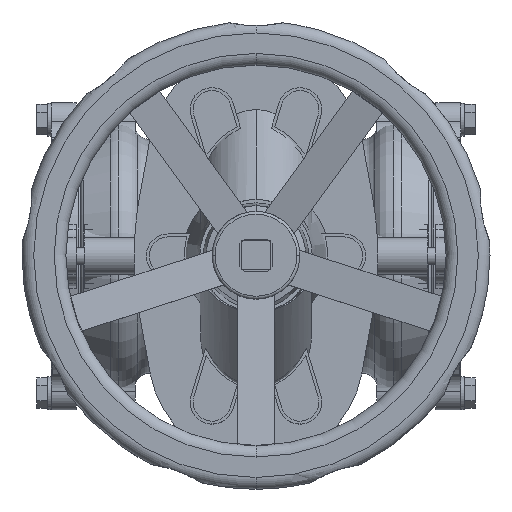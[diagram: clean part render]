
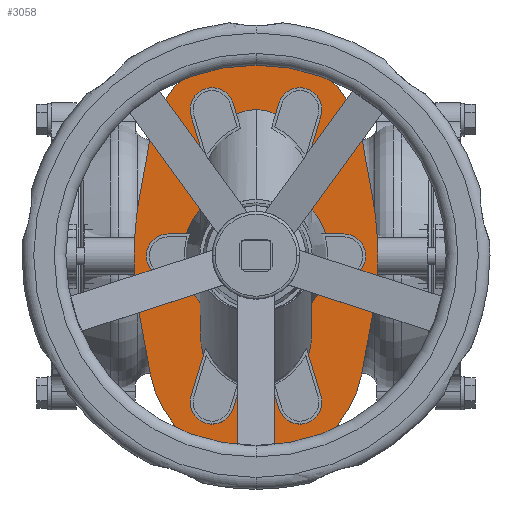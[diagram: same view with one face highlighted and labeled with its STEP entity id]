
A CAD part, top view. The second image highlights one B-rep face of the part: STEP entity #3058.
In plain terms, the highlighted planar face has unit normal (0, 0, 1).
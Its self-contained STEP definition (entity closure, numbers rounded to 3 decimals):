
#3058=ADVANCED_FACE('',(#5785),#5786,.T.);
#5785=FACE_OUTER_BOUND('',#8954,.T.);
#5786=PLANE('',#8955);
#8954=EDGE_LOOP('',(#14728,#14729,#14730,#14731,#14732,#14733,#14734,#14735,#14736,#14737,#14738,#14739,#14740,#14741));
#8955=AXIS2_PLACEMENT_3D('',#14742,#14743,#14744);
#14728=ORIENTED_EDGE('',*,*,#18981,.F.);
#14729=ORIENTED_EDGE('',*,*,#17556,.F.);
#14730=ORIENTED_EDGE('',*,*,#19130,.F.);
#14731=ORIENTED_EDGE('',*,*,#18385,.F.);
#14732=ORIENTED_EDGE('',*,*,#19417,.F.);
#14733=ORIENTED_EDGE('',*,*,#17340,.F.);
#14734=ORIENTED_EDGE('',*,*,#18104,.F.);
#14735=ORIENTED_EDGE('',*,*,#17674,.F.);
#14736=ORIENTED_EDGE('',*,*,#18150,.F.);
#14737=ORIENTED_EDGE('',*,*,#19418,.F.);
#14738=ORIENTED_EDGE('',*,*,#17766,.F.);
#14739=ORIENTED_EDGE('',*,*,#18643,.F.);
#14740=ORIENTED_EDGE('',*,*,#18400,.F.);
#14741=ORIENTED_EDGE('',*,*,#17980,.F.);
#14742=CARTESIAN_POINT('',(45.,0.,198.0));
#14743=DIRECTION('',(0.0,0.0,1.0));
#14744=DIRECTION('',(1.0,0.0,0.0));
#17340=EDGE_CURVE('',#20357,#20353,#20359,.T.);
#17556=EDGE_CURVE('',#20723,#20724,#20725,.T.);
#17674=EDGE_CURVE('',#20923,#20924,#20925,.T.);
#17766=EDGE_CURVE('',#21078,#21073,#21080,.T.);
#17980=EDGE_CURVE('',#21432,#21433,#21434,.T.);
#18104=EDGE_CURVE('',#20924,#20357,#21623,.T.);
#18150=EDGE_CURVE('',#21693,#20923,#21694,.T.);
#18385=EDGE_CURVE('',#22068,#22066,#22070,.T.);
#18400=EDGE_CURVE('',#21433,#22091,#22093,.T.);
#18643=EDGE_CURVE('',#22091,#21078,#22454,.T.);
#18981=EDGE_CURVE('',#20724,#21432,#22919,.T.);
#19130=EDGE_CURVE('',#22066,#20723,#23112,.T.);
#19417=EDGE_CURVE('',#20353,#22068,#23471,.T.);
#19418=EDGE_CURVE('',#21073,#21693,#23472,.T.);
#20353=VERTEX_POINT('',#24633);
#20357=VERTEX_POINT('',#24638);
#20359=CIRCLE('',#24641,222.594);
#20723=VERTEX_POINT('',#25204);
#20724=VERTEX_POINT('',#25205);
#20725=LINE('',#25206,#25207);
#20923=VERTEX_POINT('',#25457);
#20924=VERTEX_POINT('',#25458);
#20925=CIRCLE('',#25459,73.49);
#21073=VERTEX_POINT('',#25634);
#21078=VERTEX_POINT('',#25640);
#21080=CIRCLE('',#25643,222.594);
#21432=VERTEX_POINT('',#26099);
#21433=VERTEX_POINT('',#26100);
#21434=LINE('',#26101,#26102);
#21623=LINE('',#26382,#26383);
#21693=VERTEX_POINT('',#26469);
#21694=LINE('',#26470,#26471);
#22066=VERTEX_POINT('',#26947);
#22068=VERTEX_POINT('',#26950);
#22070=CIRCLE('',#26953,222.594);
#22091=VERTEX_POINT('',#26979);
#22093=CIRCLE('',#26982,222.594);
#22454=CIRCLE('',#27533,222.594);
#22919=CIRCLE('',#28128,73.49);
#23112=CIRCLE('',#28368,222.594);
#23471=CIRCLE('',#28834,222.594);
#23472=CIRCLE('',#28835,222.594);
#24633=CARTESIAN_POINT('',(128.258,0.594,198.0));
#24638=CARTESIAN_POINT('',(124.621,40.665,198.0));
#24641=AXIS2_PLACEMENT_3D('',#29849,#29850,#29851);
#25204=CARTESIAN_POINT('',(124.621,-40.665,198.0));
#25205=CARTESIAN_POINT('',(117.289,-80.73,198.0));
#25206=CARTESIAN_POINT('',(117.289,-80.73,198.0));
#25207=VECTOR('',#30177,1.0);
#25457=CARTESIAN_POINT('',(-27.29,80.73,198.0));
#25458=CARTESIAN_POINT('',(117.289,80.73,198.0));
#25459=AXIS2_PLACEMENT_3D('',#30353,#30354,#30355);
#25634=CARTESIAN_POINT('',(-38.258,0.593,198.0));
#25640=CARTESIAN_POINT('',(-38.258,0.001,198.0));
#25643=AXIS2_PLACEMENT_3D('',#30514,#30515,#30516);
#26099=CARTESIAN_POINT('',(-27.29,-80.73,198.0));
#26100=CARTESIAN_POINT('',(-34.622,-40.665,198.0));
#26101=CARTESIAN_POINT('',(-34.622,-40.665,198.0));
#26102=VECTOR('',#30795,1.0);
#26382=CARTESIAN_POINT('',(124.621,40.665,198.0));
#26383=VECTOR('',#30936,1.0);
#26469=CARTESIAN_POINT('',(-34.622,40.665,198.0));
#26470=CARTESIAN_POINT('',(-27.29,80.73,198.0));
#26471=VECTOR('',#31010,1.0);
#26947=CARTESIAN_POINT('',(128.258,-0.594,198.0));
#26950=CARTESIAN_POINT('',(128.257,0.,198.0));
#26953=AXIS2_PLACEMENT_3D('',#31345,#31346,#31347);
#26979=CARTESIAN_POINT('',(-38.258,-0.593,198.0));
#26982=AXIS2_PLACEMENT_3D('',#31366,#31367,#31368);
#27533=AXIS2_PLACEMENT_3D('',#31684,#31685,#31686);
#28128=AXIS2_PLACEMENT_3D('',#32117,#32118,#32119);
#28368=AXIS2_PLACEMENT_3D('',#32311,#32312,#32313);
#28834=AXIS2_PLACEMENT_3D('',#32619,#32620,#32621);
#28835=AXIS2_PLACEMENT_3D('',#32622,#32623,#32624);
#29849=CARTESIAN_POINT('',(-94.336,0.594,198.0));
#29850=DIRECTION('',(0.0,0.0,-1.0));
#29851=DIRECTION('',(1.0,0.0,0.0));
#30177=DIRECTION('',(-0.18,-0.984,-0.0));
#30353=CARTESIAN_POINT('',(45.,67.5,198.0));
#30354=DIRECTION('',(0.0,0.0,-1.0));
#30355=DIRECTION('',(1.0,0.0,0.0));
#30514=CARTESIAN_POINT('',(184.336,0.593,198.0));
#30515=DIRECTION('',(0.0,0.0,-1.0));
#30516=DIRECTION('',(1.0,0.0,0.0));
#30795=DIRECTION('',(-0.18,0.984,0.0));
#30936=DIRECTION('',(0.18,-0.984,0.0));
#31010=DIRECTION('',(0.18,0.984,0.0));
#31345=CARTESIAN_POINT('',(-94.336,-0.594,198.0));
#31346=DIRECTION('',(0.0,0.0,-1.0));
#31347=DIRECTION('',(1.0,0.0,0.0));
#31366=CARTESIAN_POINT('',(184.336,-0.593,198.0));
#31367=DIRECTION('',(0.0,0.0,-1.0));
#31368=DIRECTION('',(1.0,0.0,0.0));
#31684=CARTESIAN_POINT('',(184.336,-0.593,198.0));
#31685=DIRECTION('',(0.0,0.0,-1.0));
#31686=DIRECTION('',(1.0,0.0,0.0));
#32117=CARTESIAN_POINT('',(45.,-67.5,198.0));
#32118=DIRECTION('',(0.0,0.0,-1.0));
#32119=DIRECTION('',(1.0,0.0,0.0));
#32311=CARTESIAN_POINT('',(-94.336,-0.594,198.0));
#32312=DIRECTION('',(0.0,0.0,-1.0));
#32313=DIRECTION('',(1.0,0.0,0.0));
#32619=CARTESIAN_POINT('',(-94.336,0.594,198.0));
#32620=DIRECTION('',(0.0,0.0,-1.0));
#32621=DIRECTION('',(1.0,0.0,0.0));
#32622=CARTESIAN_POINT('',(184.336,0.593,198.0));
#32623=DIRECTION('',(0.0,0.0,-1.0));
#32624=DIRECTION('',(1.0,0.0,0.0));
